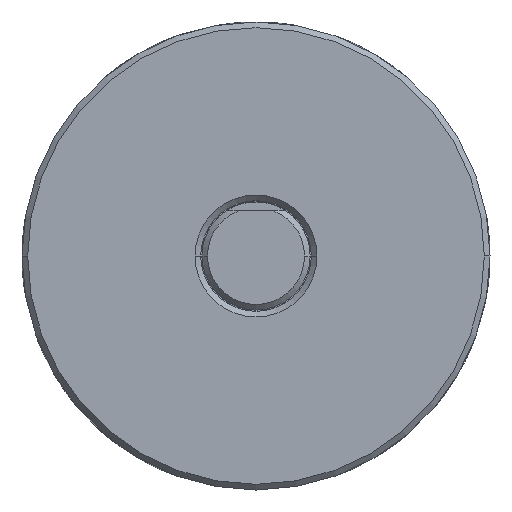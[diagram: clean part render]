
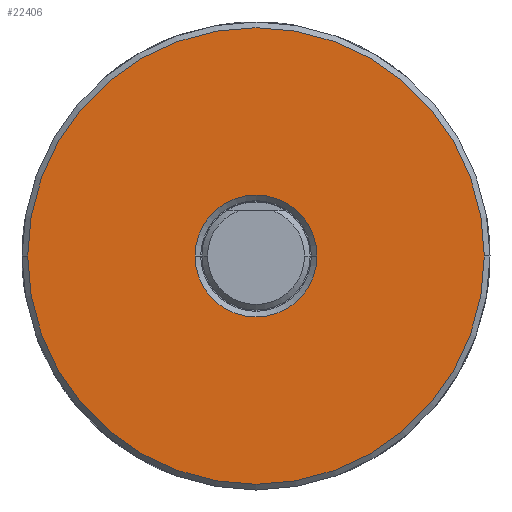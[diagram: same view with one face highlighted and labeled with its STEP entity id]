
A CAD part, left-side view. The second image highlights one B-rep face of the part: STEP entity #22406.
In plain terms, the highlighted planar face has unit normal (-1, 0, 0).
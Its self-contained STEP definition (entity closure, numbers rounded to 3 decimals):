
#8404 = DIRECTION ( 'NONE',  ( 0., -1., 0. ) ) ;
#8405 = DIRECTION ( 'NONE',  ( 1., 0., 0. ) ) ;
#8406 = CARTESIAN_POINT ( 'NONE',  ( 18.54, 0., 0. ) ) ;
#8407 = AXIS2_PLACEMENT_3D ( 'NONE', #8406, #8405, #8404 ) ;
#8408 = CIRCLE ( 'NONE', #8407, 5.363 ) ;
#8409 = CARTESIAN_POINT ( 'NONE',  ( 18.54, -5.363, 0. ) ) ;
#8410 = CARTESIAN_POINT ( 'NONE',  ( 18.54, 5.363, 0. ) ) ;
#10305 = CARTESIAN_POINT ( 'NONE',  ( 18.54, 20.075, 0. ) ) ;
#10306 = CARTESIAN_POINT ( 'NONE',  ( 18.54, -20.075, 0. ) ) ;
#10307 = DIRECTION ( 'NONE',  ( 0., -1., 0. ) ) ;
#10308 = DIRECTION ( 'NONE',  ( -1., 0., 0. ) ) ;
#10309 = AXIS2_PLACEMENT_3D ( 'NONE', #10315, #10308, #10307 ) ;
#10310 = CIRCLE ( 'NONE', #10309, 20.075 ) ;
#10315 = CARTESIAN_POINT ( 'NONE',  ( 18.54, 0., 0. ) ) ;
#12060 = DIRECTION ( 'NONE',  ( 0., -1., 0. ) ) ;
#12061 = DIRECTION ( 'NONE',  ( -1., 0., 0. ) ) ;
#12062 = CARTESIAN_POINT ( 'NONE',  ( 18.54, 4.763, 0. ) ) ;
#12063 = AXIS2_PLACEMENT_3D ( 'NONE', #12062, #12061, #12060 ) ;
#12064 = PLANE ( 'NONE',  #12063 ) ;
#12065 = FACE_OUTER_BOUND ( 'NONE', #22440, .T. ) ;
#12072 = FACE_BOUND ( 'NONE', #22407, .T. ) ;
#12079 = DIRECTION ( 'NONE',  ( 0., -1., 0. ) ) ;
#12080 = DIRECTION ( 'NONE',  ( -1., 0., 0. ) ) ;
#12081 = CARTESIAN_POINT ( 'NONE',  ( 18.54, 0., 0. ) ) ;
#12082 = AXIS2_PLACEMENT_3D ( 'NONE', #12081, #12080, #12079 ) ;
#12083 = CIRCLE ( 'NONE', #12082, 20.075 ) ;
#12084 = DIRECTION ( 'NONE',  ( 0., -1., 0. ) ) ;
#12085 = DIRECTION ( 'NONE',  ( 1., 0., 0. ) ) ;
#12086 = CARTESIAN_POINT ( 'NONE',  ( 18.54, 0., 0. ) ) ;
#12087 = AXIS2_PLACEMENT_3D ( 'NONE', #12086, #12085, #12084 ) ;
#12088 = CIRCLE ( 'NONE', #12087, 5.363 ) ;
#21248 = VERTEX_POINT ( 'NONE', #8410 ) ;
#21250 = EDGE_CURVE ( 'NONE', #21251, #21248, #8408, .T. ) ;
#21251 = VERTEX_POINT ( 'NONE', #8409 ) ;
#21895 = EDGE_CURVE ( 'NONE', #21896, #21897, #10310, .T. ) ;
#21896 = VERTEX_POINT ( 'NONE', #10306 ) ;
#21897 = VERTEX_POINT ( 'NONE', #10305 ) ;
#22406 = ADVANCED_FACE ( 'NONE', ( #12072, #12065 ), #12064, .T. ) ;
#22407 = EDGE_LOOP ( 'NONE', ( #22408, #22438 ) ) ;
#22408 = ORIENTED_EDGE ( 'NONE', *, *, #21250, .T. ) ;
#22438 = ORIENTED_EDGE ( 'NONE', *, *, #22439, .T. ) ;
#22439 = EDGE_CURVE ( 'NONE', #21248, #21251, #12088, .T. ) ;
#22440 = EDGE_LOOP ( 'NONE', ( #22441, #22443 ) ) ;
#22441 = ORIENTED_EDGE ( 'NONE', *, *, #22442, .T. ) ;
#22442 = EDGE_CURVE ( 'NONE', #21897, #21896, #12083, .T. ) ;
#22443 = ORIENTED_EDGE ( 'NONE', *, *, #21895, .T. ) ;
